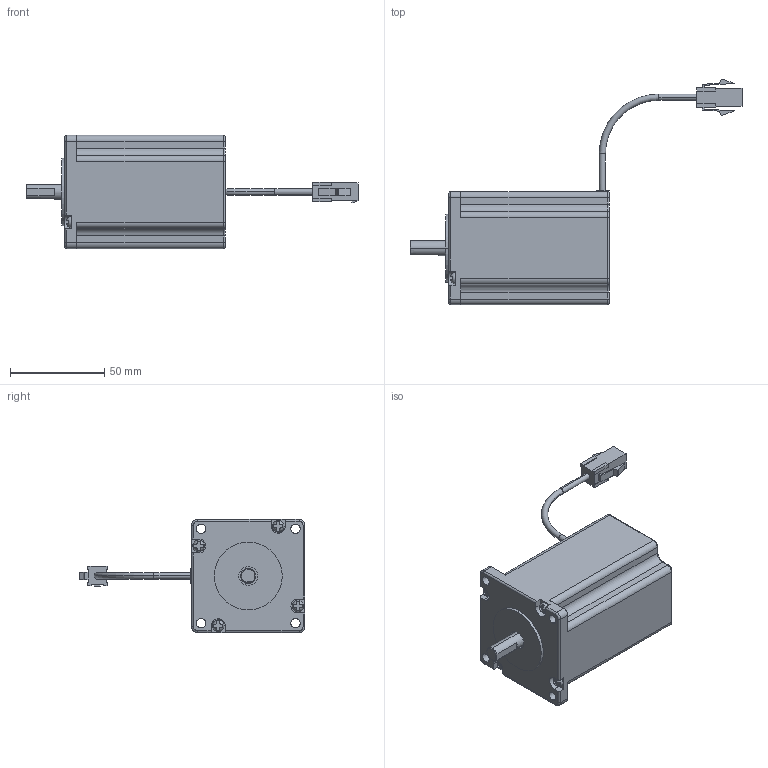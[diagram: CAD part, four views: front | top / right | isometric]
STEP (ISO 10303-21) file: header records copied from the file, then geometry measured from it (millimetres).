
FILE_DESCRIPTION (( 'STEP AP203' ), '1' );
FILE_NAME ('P21-MO-060-03-R00.STEP', '2015-06-30T08:37:10', ( '' ), ( '' ), 'SwSTEP 2.0', 'SolidWorks 2013', '' );
FILE_SCHEMA (( 'CONFIG_CONTROL_DESIGN' ));
Length unit declared in the file: millimetre
Products named in the file (3): Power_Cable_ル遽; M21-MO-060-03-R00; P21-MO-060-03-R00
Assembly tree (2 placements, depth 2):
  P21-MO-060-03-R00
    M21-MO-060-03-R00
    Power_Cable_ル遽
Bounding box: 175.88 x 119.61 x 60 mm (x, y, z)
Volume: 273678.5 mm3; surface area: 31042.9 mm2
Topology: 2 solids, 2 shells, 296 faces, 771 edges, 501 vertices
Faces by surface type: plane 180, cylinder 91, torus 15, sphere 4, cone 3, bspline 3
Entity records: 9579 total; most frequent: CARTESIAN_POINT 1865, DIRECTION 1582, ORIENTED_EDGE 1526, EDGE_CURVE 763, AXIS2_PLACEMENT_3D 545, VERTEX_POINT 497, VECTOR 492, LINE 492
